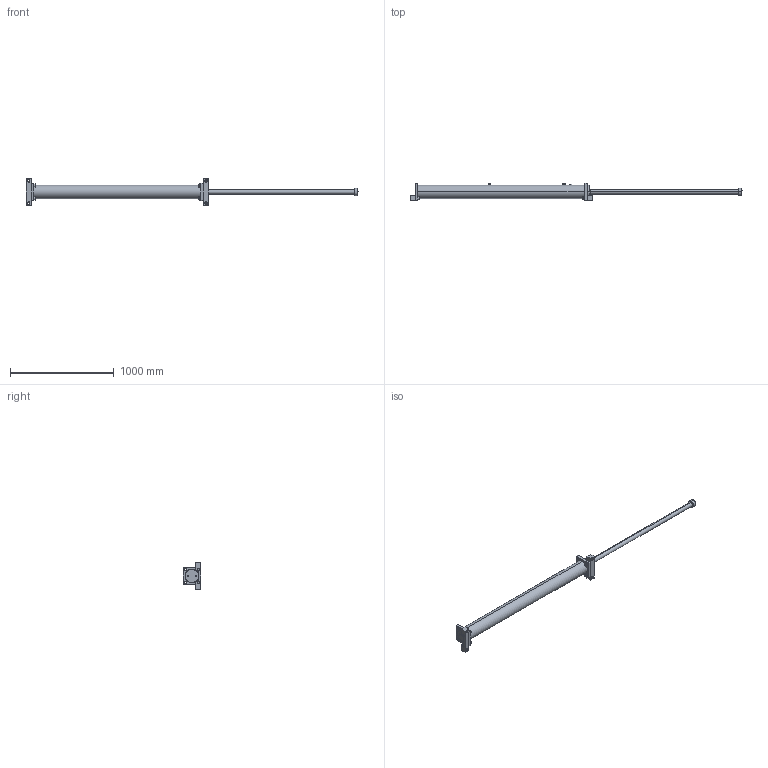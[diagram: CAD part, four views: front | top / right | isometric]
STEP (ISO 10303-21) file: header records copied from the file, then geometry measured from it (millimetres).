
FILE_DESCRIPTION (( 'STEP AP214' ), '1' );
FILE_NAME ('LDD3.0X56.STEP', '2019-01-16T07:59:28', ( 'user' ), ( 'Microsoft' ), 'SwSTEP 2.0', 'SolidWorks 2016', '' );
FILE_SCHEMA (( 'AUTOMOTIVE_DESIGN' ));
Length unit declared in the file: inch
Products named in the file (1): LDD3.0X56
Bounding box: 3206 x 172.5 x 255 mm (x, y, z)
Surface area: 1197636.6 mm2 (no closed solid volume)
Topology: 0 solids, 29 shells, 273 faces, 769 edges, 524 vertices
Faces by surface type: plane 111, cylinder 83, cone 51, bspline 28
Entity records: 14889 total; most frequent: CARTESIAN_POINT 7947, DIRECTION 1434, ORIENTED_EDGE 1324, EDGE_CURVE 769, AXIS2_PLACEMENT_3D 533, VERTEX_POINT 524, LINE 368, VECTOR 368
